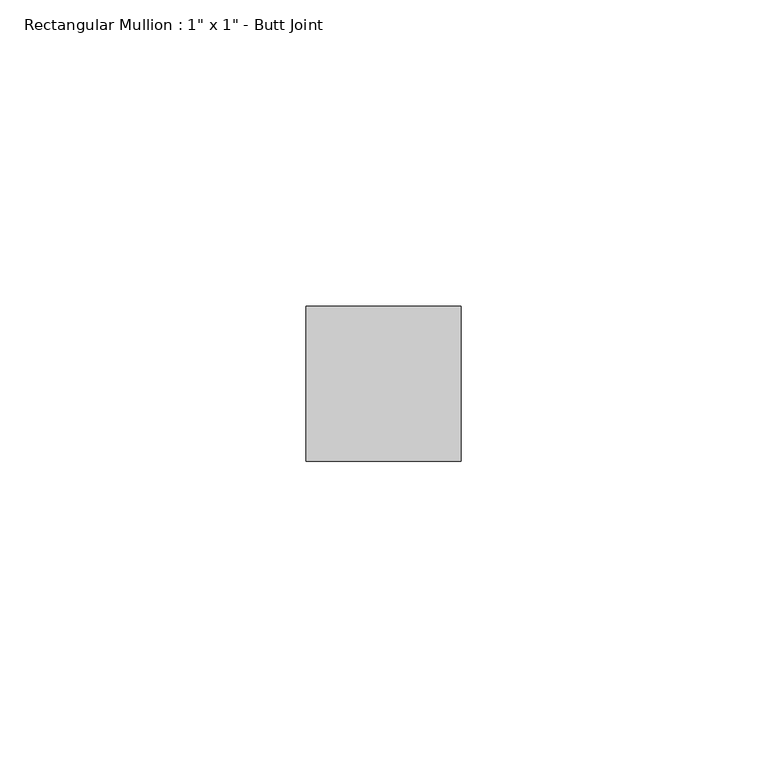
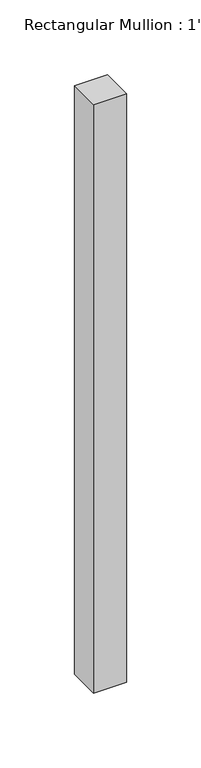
"""IFC4 building model written with IfcOpenShell, lengths in millimetres: member geometry."""

from ifc_helpers import new_model, si_unit, frame, origin, place, context, project, spatial, polyline, outline, extrude, source, transform, mapped, element, save


def member_605ff978(model_context):
    return source(origin(), model_context, "Body", "SweptSolid", [
        extrude(outline(polyline([(12.7, 12.7), (12.7, -12.7), (-12.7, -12.7), (-12.7, 12.7), (12.7, 12.7)])), frame((0.0, 0.0, -480.6840494), z_axis=(0.0, 0.0, 1.0), x_axis=(1.0, 0.0, 0.0)), (0.0, 0.0, 1.0), 480.6840494),
    ])


if __name__ == "__main__":
    model = new_model("IFC4")
    model_context = context("Model", 3, world=origin())
    ifc_project = project(units=[si_unit("LENGTHUNIT", "METRE", prefix="MILLI")], contexts=[model_context])
    site = spatial("IfcSite", under=ifc_project)
    building = spatial("IfcBuilding", under=site)
    placement = place(None, origin())
    member_shape = member_605ff978(model_context)
    element("IfcMember", 1, ObjectType="Rectangular Mullion : 1\" x 1\" - Butt Joint", at=placement, inside=building, context=model_context, shape_type="MappedRepresentation", body=[
        mapped(member_shape, transform((0.0, 0.0, 0.0), x_axis=(1.0, 0.0, 0.0), y_axis=(0.0, 1.0, 0.0), z_axis=(0.0, 0.0, 1.0))),
    ])
    save(model, "model.ifc")
